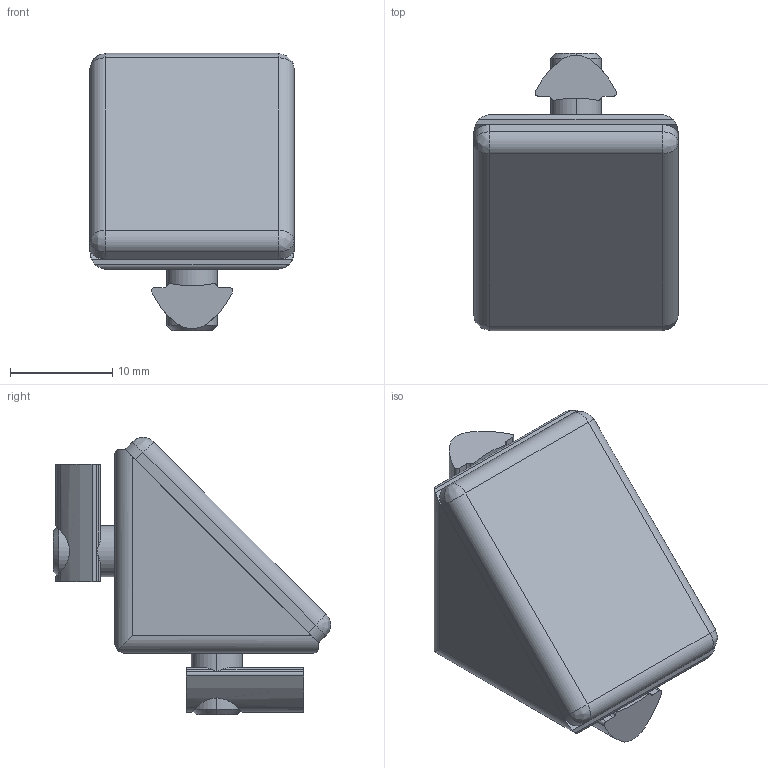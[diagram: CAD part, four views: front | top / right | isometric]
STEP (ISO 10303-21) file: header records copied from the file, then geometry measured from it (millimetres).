
FILE_DESCRIPTION (( 'STEP AP203' ), '1' );
FILE_NAME ('0105W2020ZNSZ.STEP', '2024-03-12T14:36:12', ( 'Windows-Benutzer' ), ( '' ), 'SwSTEP 2.0', 'SolidWorks 2023', '' );
FILE_SCHEMA (( 'CONFIG_CONTROL_DESIGN' ));
Length unit declared in the file: millimetre
Products named in the file (1): 0105W2020ZNSZ
Bounding box: 20 x 27.14 x 27.14 mm (x, y, z)
Volume: 4709.6 mm3; surface area: 4981.3 mm2
Topology: 6 solids, 6 shells, 154 faces, 397 edges, 256 vertices
Faces by surface type: cylinder 73, plane 69, bspline 8, cone 4
Entity records: 5102 total; most frequent: CARTESIAN_POINT 1318, ORIENTED_EDGE 786, DIRECTION 759, EDGE_CURVE 393, AXIS2_PLACEMENT_3D 273, VERTEX_POINT 256, LINE 213, VECTOR 213
